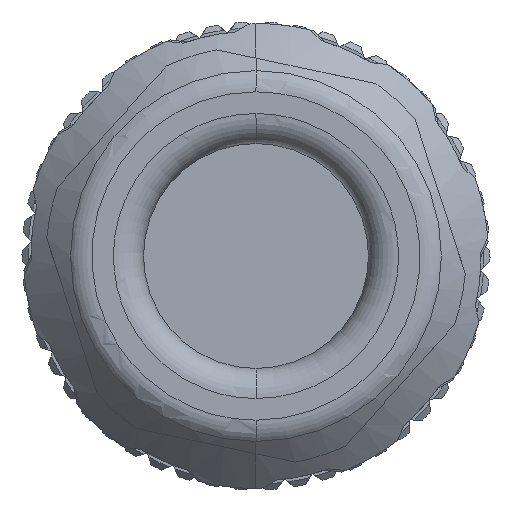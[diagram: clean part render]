
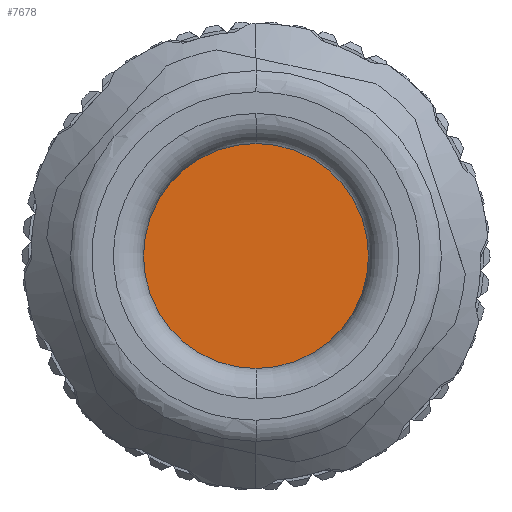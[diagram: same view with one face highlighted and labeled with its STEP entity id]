
A CAD part, left-side view. The second image highlights one B-rep face of the part: STEP entity #7678.
In plain terms, the highlighted planar face has unit normal (-1, 0, 0).
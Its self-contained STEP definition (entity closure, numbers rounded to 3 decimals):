
#623 = CARTESIAN_POINT ( 'NONE',  ( -2.198, 28.977, 42.029 ) ) ;
#5151 = FACE_OUTER_BOUND ( 'NONE', #30424, .T. ) ;
#7106 = CARTESIAN_POINT ( 'NONE',  ( -2.198, 28.977, 47.329 ) ) ;
#7678 = ADVANCED_FACE ( 'NONE', ( #5151 ), #57128, .T. ) ;
#9157 = VERTEX_POINT ( 'NONE', #14856 ) ;
#9610 = CIRCLE ( 'NONE', #42629, 5.3 ) ;
#9824 = AXIS2_PLACEMENT_3D ( 'NONE', #34980, #30122, #17282 ) ;
#14856 = CARTESIAN_POINT ( 'NONE',  ( -2.198, 28.977, 52.629 ) ) ;
#17282 = DIRECTION ( 'NONE',  ( 0., 0., 1. ) ) ;
#20217 = ORIENTED_EDGE ( 'NONE', *, *, #46232, .T. ) ;
#23283 = ORIENTED_EDGE ( 'NONE', *, *, #37969, .T. ) ;
#30122 = DIRECTION ( 'NONE',  ( -1., 0., 0. ) ) ;
#30424 = EDGE_LOOP ( 'NONE', ( #20217, #23283 ) ) ;
#34980 = CARTESIAN_POINT ( 'NONE',  ( -2.198, 28.977, 47.329 ) ) ;
#37969 = EDGE_CURVE ( 'NONE', #48525, #9157, #51467, .T. ) ;
#38754 = DIRECTION ( 'NONE',  ( -1., 0., 0. ) ) ;
#39322 = CARTESIAN_POINT ( 'NONE',  ( -2.198, 28.977, 47.329 ) ) ;
#39519 = DIRECTION ( 'NONE',  ( 0., 0., 1. ) ) ;
#42629 = AXIS2_PLACEMENT_3D ( 'NONE', #7106, #46854, #51296 ) ;
#46232 = EDGE_CURVE ( 'NONE', #9157, #48525, #9610, .T. ) ;
#46854 = DIRECTION ( 'NONE',  ( -1., 0., 0. ) ) ;
#48525 = VERTEX_POINT ( 'NONE', #623 ) ;
#49931 = AXIS2_PLACEMENT_3D ( 'NONE', #39322, #38754, #39519 ) ;
#51296 = DIRECTION ( 'NONE',  ( 0., 0., 1. ) ) ;
#51467 = CIRCLE ( 'NONE', #49931, 5.3 ) ;
#57128 = PLANE ( 'NONE',  #9824 ) ;
